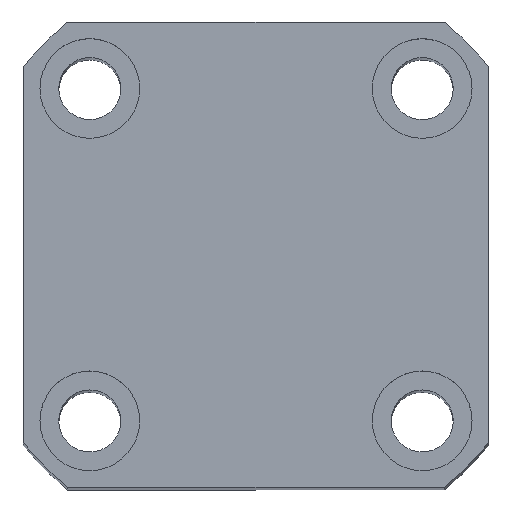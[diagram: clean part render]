
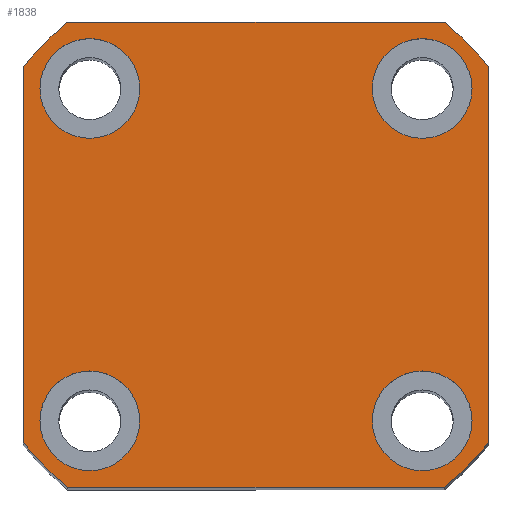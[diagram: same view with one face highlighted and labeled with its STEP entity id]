
A CAD part, top view. The second image highlights one B-rep face of the part: STEP entity #1838.
In plain terms, the highlighted planar face has unit normal (0, 0, 1).
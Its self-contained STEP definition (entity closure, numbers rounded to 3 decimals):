
#5 = VERTEX_POINT ( 'NONE', #12397 ) ;
#95 = CIRCLE ( 'NONE', #6176, 4.5 ) ;
#183 = ORIENTED_EDGE ( 'NONE', *, *, #13733, .T. ) ;
#342 = DIRECTION ( 'NONE',  ( 1., 0., 0. ) ) ;
#408 = DIRECTION ( 'NONE',  ( 1., 0., 0. ) ) ;
#604 = AXIS2_PLACEMENT_3D ( 'NONE', #3512, #3278, #342 ) ;
#730 = CIRCLE ( 'NONE', #4432, 27. ) ;
#768 = DIRECTION ( 'NONE',  ( 1., 0., 0. ) ) ;
#1028 = DIRECTION ( 'NONE',  ( 0., 1., 0. ) ) ;
#1032 = EDGE_CURVE ( 'NONE', #13020, #10920, #11766, .T. ) ;
#1165 = AXIS2_PLACEMENT_3D ( 'NONE', #1853, #9298, #2968 ) ;
#1173 = DIRECTION ( 'NONE',  ( 1., 0., 0. ) ) ;
#1174 = CARTESIAN_POINT ( 'NONE',  ( -19.5, 15.002, 138. ) ) ;
#1216 = DIRECTION ( 'NONE',  ( 0., 0., 1. ) ) ;
#1224 = AXIS2_PLACEMENT_3D ( 'NONE', #12237, #1216, #1173 ) ;
#1322 = EDGE_CURVE ( 'NONE', #5, #5631, #12375, .T. ) ;
#1371 = VERTEX_POINT ( 'NONE', #5763 ) ;
#1388 = ORIENTED_EDGE ( 'NONE', *, *, #1322, .T. ) ;
#1492 = CARTESIAN_POINT ( 'NONE',  ( -16.971, -21., 138. ) ) ;
#1515 = CARTESIAN_POINT ( 'NONE',  ( 15., 15., 138. ) ) ;
#1838 = ADVANCED_FACE ( 'NONE', ( #3322, #11513, #8942, #8593, #5826 ), #5933, .T. ) ;
#1853 = CARTESIAN_POINT ( 'NONE',  ( 15., -14.998, 138. ) ) ;
#1991 = EDGE_CURVE ( 'NONE', #10920, #13020, #7615, .T. ) ;
#2058 = DIRECTION ( 'NONE',  ( 0., 0., 1. ) ) ;
#2096 = EDGE_CURVE ( 'NONE', #7848, #2405, #9428, .T. ) ;
#2405 = VERTEX_POINT ( 'NONE', #4816 ) ;
#2547 = EDGE_CURVE ( 'NONE', #8298, #9892, #95, .T. ) ;
#2554 = LINE ( 'NONE', #6513, #5065 ) ;
#2611 = DIRECTION ( 'NONE',  ( 1., 0., 0. ) ) ;
#2689 = AXIS2_PLACEMENT_3D ( 'NONE', #11553, #5156, #12625 ) ;
#2778 = VERTEX_POINT ( 'NONE', #2932 ) ;
#2823 = CARTESIAN_POINT ( 'NONE',  ( 0., 0., 138. ) ) ;
#2889 = ORIENTED_EDGE ( 'NONE', *, *, #6671, .F. ) ;
#2932 = CARTESIAN_POINT ( 'NONE',  ( -21., 16.971, 138. ) ) ;
#2968 = DIRECTION ( 'NONE',  ( 1., 0., 0. ) ) ;
#3226 = ORIENTED_EDGE ( 'NONE', *, *, #8844, .T. ) ;
#3278 = DIRECTION ( 'NONE',  ( 0., 0., 1. ) ) ;
#3322 = FACE_BOUND ( 'NONE', #12318, .T. ) ;
#3426 = LINE ( 'NONE', #6716, #8695 ) ;
#3438 = CARTESIAN_POINT ( 'NONE',  ( 16.971, -21., 138. ) ) ;
#3512 = CARTESIAN_POINT ( 'NONE',  ( -15., 15.002, 138. ) ) ;
#3618 = CARTESIAN_POINT ( 'NONE',  ( 0., 0., 138. ) ) ;
#3655 = EDGE_CURVE ( 'NONE', #9892, #8298, #3791, .T. ) ;
#3791 = CIRCLE ( 'NONE', #5366, 4.5 ) ;
#3893 = DIRECTION ( 'NONE',  ( 1., 0., 0. ) ) ;
#3972 = EDGE_CURVE ( 'NONE', #10241, #7848, #8053, .T. ) ;
#4161 = VECTOR ( 'NONE', #4284, 1000. ) ;
#4235 = DIRECTION ( 'NONE',  ( 1., 0., 0. ) ) ;
#4284 = DIRECTION ( 'NONE',  ( -1., 0., 0. ) ) ;
#4340 = CARTESIAN_POINT ( 'NONE',  ( 10.5, 15., 138. ) ) ;
#4398 = CARTESIAN_POINT ( 'NONE',  ( 19.5, 15., 138. ) ) ;
#4432 = AXIS2_PLACEMENT_3D ( 'NONE', #2823, #10253, #3893 ) ;
#4586 = ORIENTED_EDGE ( 'NONE', *, *, #9811, .F. ) ;
#4710 = DIRECTION ( 'NONE',  ( 1., 0., 0. ) ) ;
#4816 = CARTESIAN_POINT ( 'NONE',  ( 21., -16.971, 138. ) ) ;
#4826 = EDGE_CURVE ( 'NONE', #6443, #10241, #13280, .T. ) ;
#5065 = VECTOR ( 'NONE', #1028, 1000. ) ;
#5073 = VERTEX_POINT ( 'NONE', #7573 ) ;
#5084 = ORIENTED_EDGE ( 'NONE', *, *, #8855, .F. ) ;
#5137 = ORIENTED_EDGE ( 'NONE', *, *, #1991, .F. ) ;
#5156 = DIRECTION ( 'NONE',  ( 0., 0., 1. ) ) ;
#5270 = VECTOR ( 'NONE', #4235, 1000. ) ;
#5323 = EDGE_CURVE ( 'NONE', #2778, #6443, #3426, .T. ) ;
#5366 = AXIS2_PLACEMENT_3D ( 'NONE', #13575, #7152, #768 ) ;
#5412 = CIRCLE ( 'NONE', #1165, 4.5 ) ;
#5441 = DIRECTION ( 'NONE',  ( 0., 0., 1. ) ) ;
#5631 = VERTEX_POINT ( 'NONE', #7153 ) ;
#5763 = CARTESIAN_POINT ( 'NONE',  ( -10.5, -14.998, 138. ) ) ;
#5826 = FACE_OUTER_BOUND ( 'NONE', #7906, .T. ) ;
#5933 = PLANE ( 'NONE',  #9422 ) ;
#6176 = AXIS2_PLACEMENT_3D ( 'NONE', #1515, #8954, #2611 ) ;
#6373 = CARTESIAN_POINT ( 'NONE',  ( -21., -21., 138. ) ) ;
#6412 = ORIENTED_EDGE ( 'NONE', *, *, #2547, .F. ) ;
#6443 = VERTEX_POINT ( 'NONE', #13411 ) ;
#6504 = EDGE_CURVE ( 'NONE', #12360, #5073, #5412, .T. ) ;
#6513 = CARTESIAN_POINT ( 'NONE',  ( 21., 21., 138. ) ) ;
#6566 = EDGE_LOOP ( 'NONE', ( #5084, #4586 ) ) ;
#6657 = CARTESIAN_POINT ( 'NONE',  ( 19.5, -14.998, 138. ) ) ;
#6671 = EDGE_CURVE ( 'NONE', #5073, #12360, #13265, .T. ) ;
#6716 = CARTESIAN_POINT ( 'NONE',  ( -21., 21., 138. ) ) ;
#6817 = DIRECTION ( 'NONE',  ( 0., -1., 0. ) ) ;
#6830 = DIRECTION ( 'NONE',  ( 0., 0., 1. ) ) ;
#7152 = DIRECTION ( 'NONE',  ( 0., 0., 1. ) ) ;
#7153 = CARTESIAN_POINT ( 'NONE',  ( -16.971, 21., 138. ) ) ;
#7268 = ORIENTED_EDGE ( 'NONE', *, *, #1032, .F. ) ;
#7573 = CARTESIAN_POINT ( 'NONE',  ( 10.5, -14.998, 138. ) ) ;
#7615 = CIRCLE ( 'NONE', #604, 4.5 ) ;
#7685 = CIRCLE ( 'NONE', #8631, 27. ) ;
#7792 = EDGE_CURVE ( 'NONE', #2405, #7891, #2554, .T. ) ;
#7813 = VERTEX_POINT ( 'NONE', #10809 ) ;
#7848 = VERTEX_POINT ( 'NONE', #3438 ) ;
#7868 = ORIENTED_EDGE ( 'NONE', *, *, #3972, .T. ) ;
#7891 = VERTEX_POINT ( 'NONE', #8742 ) ;
#7906 = EDGE_LOOP ( 'NONE', ( #12453, #183, #1388, #3226, #11102, #11092, #7868, #10386 ) ) ;
#8053 = LINE ( 'NONE', #6373, #5270 ) ;
#8298 = VERTEX_POINT ( 'NONE', #4398 ) ;
#8431 = CARTESIAN_POINT ( 'NONE',  ( -15., -14.998, 138. ) ) ;
#8496 = EDGE_LOOP ( 'NONE', ( #6412, #10729 ) ) ;
#8593 = FACE_BOUND ( 'NONE', #8496, .T. ) ;
#8631 = AXIS2_PLACEMENT_3D ( 'NONE', #3618, #11090, #4710 ) ;
#8695 = VECTOR ( 'NONE', #6817, 1000. ) ;
#8742 = CARTESIAN_POINT ( 'NONE',  ( 21., 16.971, 138. ) ) ;
#8829 = CARTESIAN_POINT ( 'NONE',  ( -21., 21., 138. ) ) ;
#8844 = EDGE_CURVE ( 'NONE', #5631, #2778, #7685, .T. ) ;
#8855 = EDGE_CURVE ( 'NONE', #1371, #7813, #13084, .T. ) ;
#8942 = FACE_BOUND ( 'NONE', #11467, .T. ) ;
#8954 = DIRECTION ( 'NONE',  ( 0., 0., 1. ) ) ;
#9298 = DIRECTION ( 'NONE',  ( 0., 0., 1. ) ) ;
#9341 = AXIS2_PLACEMENT_3D ( 'NONE', #13230, #6830, #408 ) ;
#9422 = AXIS2_PLACEMENT_3D ( 'NONE', #10521, #10989, #10356 ) ;
#9428 = CIRCLE ( 'NONE', #10635, 27. ) ;
#9430 = CIRCLE ( 'NONE', #10170, 4.5 ) ;
#9490 = DIRECTION ( 'NONE',  ( 1., 0., 0. ) ) ;
#9811 = EDGE_CURVE ( 'NONE', #7813, #1371, #9430, .T. ) ;
#9892 = VERTEX_POINT ( 'NONE', #4340 ) ;
#9909 = DIRECTION ( 'NONE',  ( 1., 0., 0. ) ) ;
#9963 = DIRECTION ( 'NONE',  ( 0., 0., 1. ) ) ;
#9998 = CARTESIAN_POINT ( 'NONE',  ( 0., 0., 138. ) ) ;
#10170 = AXIS2_PLACEMENT_3D ( 'NONE', #8431, #2058, #9490 ) ;
#10241 = VERTEX_POINT ( 'NONE', #1492 ) ;
#10253 = DIRECTION ( 'NONE',  ( 0., 0., 1. ) ) ;
#10267 = CARTESIAN_POINT ( 'NONE',  ( -10.5, 15.002, 138. ) ) ;
#10356 = DIRECTION ( 'NONE',  ( 1., 0., 0. ) ) ;
#10386 = ORIENTED_EDGE ( 'NONE', *, *, #2096, .T. ) ;
#10449 = AXIS2_PLACEMENT_3D ( 'NONE', #11853, #5441, #12910 ) ;
#10521 = CARTESIAN_POINT ( 'NONE',  ( 0., 0., 138. ) ) ;
#10635 = AXIS2_PLACEMENT_3D ( 'NONE', #9998, #9963, #9909 ) ;
#10729 = ORIENTED_EDGE ( 'NONE', *, *, #3655, .F. ) ;
#10809 = CARTESIAN_POINT ( 'NONE',  ( -19.5, -14.998, 138. ) ) ;
#10920 = VERTEX_POINT ( 'NONE', #10267 ) ;
#10989 = DIRECTION ( 'NONE',  ( 0., 0., 1. ) ) ;
#11090 = DIRECTION ( 'NONE',  ( 0., 0., 1. ) ) ;
#11092 = ORIENTED_EDGE ( 'NONE', *, *, #4826, .T. ) ;
#11102 = ORIENTED_EDGE ( 'NONE', *, *, #5323, .T. ) ;
#11467 = EDGE_LOOP ( 'NONE', ( #12935, #2889 ) ) ;
#11513 = FACE_BOUND ( 'NONE', #6566, .T. ) ;
#11553 = CARTESIAN_POINT ( 'NONE',  ( 0., 0., 138. ) ) ;
#11766 = CIRCLE ( 'NONE', #1224, 4.5 ) ;
#11853 = CARTESIAN_POINT ( 'NONE',  ( 15., -14.998, 138. ) ) ;
#12237 = CARTESIAN_POINT ( 'NONE',  ( -15., 15.002, 138. ) ) ;
#12318 = EDGE_LOOP ( 'NONE', ( #5137, #7268 ) ) ;
#12360 = VERTEX_POINT ( 'NONE', #6657 ) ;
#12375 = LINE ( 'NONE', #8829, #4161 ) ;
#12397 = CARTESIAN_POINT ( 'NONE',  ( 16.971, 21., 138. ) ) ;
#12453 = ORIENTED_EDGE ( 'NONE', *, *, #7792, .T. ) ;
#12625 = DIRECTION ( 'NONE',  ( 1., 0., 0. ) ) ;
#12910 = DIRECTION ( 'NONE',  ( 1., 0., 0. ) ) ;
#12935 = ORIENTED_EDGE ( 'NONE', *, *, #6504, .F. ) ;
#13020 = VERTEX_POINT ( 'NONE', #1174 ) ;
#13084 = CIRCLE ( 'NONE', #9341, 4.5 ) ;
#13230 = CARTESIAN_POINT ( 'NONE',  ( -15., -14.998, 138. ) ) ;
#13265 = CIRCLE ( 'NONE', #10449, 4.5 ) ;
#13280 = CIRCLE ( 'NONE', #2689, 27. ) ;
#13411 = CARTESIAN_POINT ( 'NONE',  ( -21., -16.971, 138. ) ) ;
#13575 = CARTESIAN_POINT ( 'NONE',  ( 15., 15., 138. ) ) ;
#13733 = EDGE_CURVE ( 'NONE', #7891, #5, #730, .T. ) ;
